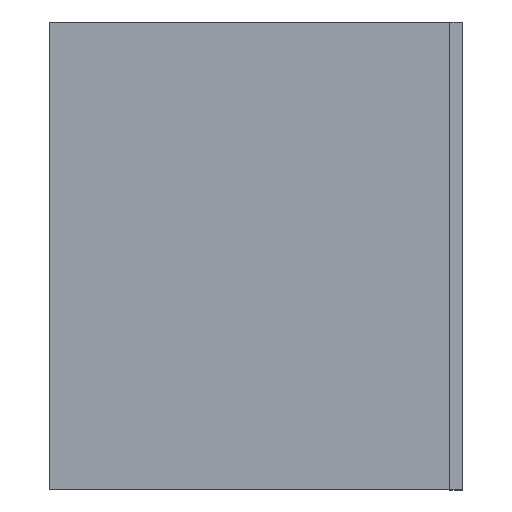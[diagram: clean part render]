
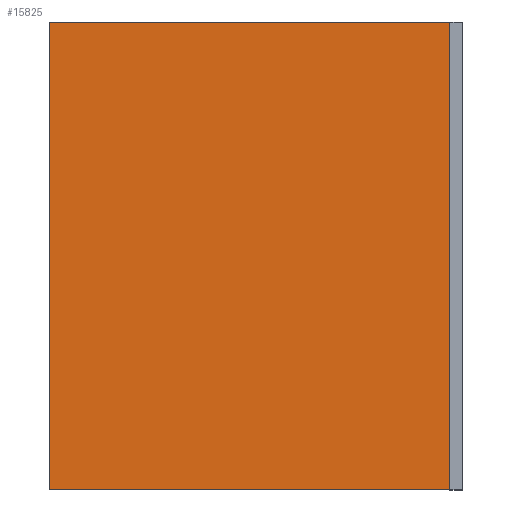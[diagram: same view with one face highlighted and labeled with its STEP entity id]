
A CAD part, left-side view. The second image highlights one B-rep face of the part: STEP entity #15825.
In plain terms, the highlighted planar face has unit normal (-1, 0, 0).
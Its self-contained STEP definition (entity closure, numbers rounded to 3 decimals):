
#752 = EDGE_CURVE ( 'NONE', #2099, #18280, #7608, .T. ) ;
#960 = VECTOR ( 'NONE', #18358, 1000. ) ;
#1365 = DIRECTION ( 'NONE',  ( 0., 1., 0. ) ) ;
#1562 = LINE ( 'NONE', #18407, #960 ) ;
#2099 = VERTEX_POINT ( 'NONE', #9463 ) ;
#2689 = EDGE_CURVE ( 'NONE', #18280, #20600, #4784, .T. ) ;
#2896 = ORIENTED_EDGE ( 'NONE', *, *, #7985, .F. ) ;
#4046 = ORIENTED_EDGE ( 'NONE', *, *, #2689, .F. ) ;
#4415 = VECTOR ( 'NONE', #18899, 1000. ) ;
#4784 = LINE ( 'NONE', #13475, #4415 ) ;
#4832 = DIRECTION ( 'NONE',  ( 0., 0., 1. ) ) ;
#4839 = DIRECTION ( 'NONE',  ( -1., 0., 0. ) ) ;
#4856 = CARTESIAN_POINT ( 'NONE',  ( 0., 19.25, -22.5 ) ) ;
#5086 = PLANE ( 'NONE',  #11349 ) ;
#5625 = CARTESIAN_POINT ( 'NONE',  ( 0., -19.25, -22.5 ) ) ;
#6201 = EDGE_LOOP ( 'NONE', ( #9811, #2896, #4046, #9669 ) ) ;
#6219 = DIRECTION ( 'NONE',  ( 0., 0., 1. ) ) ;
#7123 = CARTESIAN_POINT ( 'NONE',  ( 0., 19.25, 22.5 ) ) ;
#7608 = LINE ( 'NONE', #7123, #8466 ) ;
#7807 = CARTESIAN_POINT ( 'NONE',  ( 0., 19.25, 22.5 ) ) ;
#7985 = EDGE_CURVE ( 'NONE', #20600, #19435, #1562, .T. ) ;
#8466 = VECTOR ( 'NONE', #6219, 1000. ) ;
#9463 = CARTESIAN_POINT ( 'NONE',  ( 0., 19.25, -22.5 ) ) ;
#9669 = ORIENTED_EDGE ( 'NONE', *, *, #752, .F. ) ;
#9811 = ORIENTED_EDGE ( 'NONE', *, *, #9858, .F. ) ;
#9858 = EDGE_CURVE ( 'NONE', #19435, #2099, #11896, .T. ) ;
#9952 = CARTESIAN_POINT ( 'NONE',  ( 0., -19.25, -22.5 ) ) ;
#10383 = VECTOR ( 'NONE', #1365, 1000. ) ;
#11050 = CARTESIAN_POINT ( 'NONE',  ( 0., -19.25, 22.5 ) ) ;
#11349 = AXIS2_PLACEMENT_3D ( 'NONE', #4856, #4839, #4832 ) ;
#11896 = LINE ( 'NONE', #5625, #10383 ) ;
#13475 = CARTESIAN_POINT ( 'NONE',  ( 0., -19.25, 22.5 ) ) ;
#15825 = ADVANCED_FACE ( 'NONE', ( #16071 ), #5086, .T. ) ;
#16071 = FACE_OUTER_BOUND ( 'NONE', #6201, .T. ) ;
#18280 = VERTEX_POINT ( 'NONE', #7807 ) ;
#18358 = DIRECTION ( 'NONE',  ( 0., 0., -1. ) ) ;
#18407 = CARTESIAN_POINT ( 'NONE',  ( 0., -19.25, 22.5 ) ) ;
#18899 = DIRECTION ( 'NONE',  ( 0., -1., 0. ) ) ;
#19435 = VERTEX_POINT ( 'NONE', #9952 ) ;
#20600 = VERTEX_POINT ( 'NONE', #11050 ) ;
